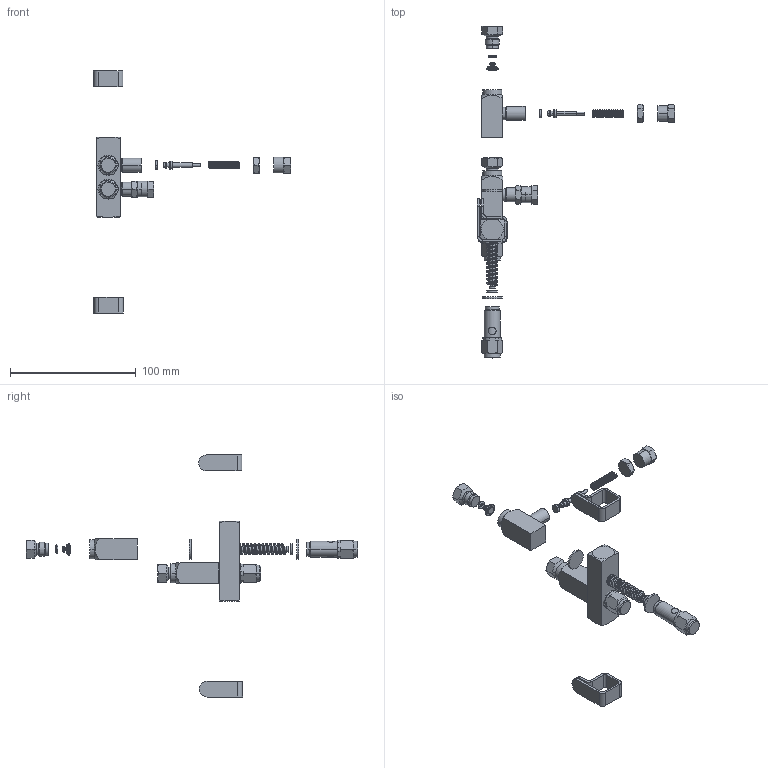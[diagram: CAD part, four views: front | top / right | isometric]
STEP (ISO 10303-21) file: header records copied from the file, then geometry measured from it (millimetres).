
FILE_DESCRIPTION((''),'2;1');
FILE_NAME('24Z542-EN-E_PRT','2022-02-14T12:23:46',('qtmwp1'),(''),'CREO PARAMETRIC BY PTC INC, 2021072','CREO PARAMETRIC BY PTC INC, 2021072','');
FILE_SCHEMA(('CONFIG_CONTROL_DESIGN'));
Length unit declared in the file: inch
Products named in the file (1): 24Z542-EN-E_PRT
Bounding box: 156.58 x 263.62 x 192.27 mm (x, y, z)
Surface area: 30220 mm2 (no closed solid volume)
Topology: 0 solids, 44 shells, 426 faces, 948 edges, 568 vertices
Faces by surface type: plane 175, cone 110, cylinder 109, bspline 16, torus 16
Entity records: 24324 total; most frequent: CARTESIAN_POINT 15300, DIRECTION 1874, ORIENTED_EDGE 1778, EDGE_CURVE 948, AXIS2_PLACEMENT_3D 742, VERTEX_POINT 568, EDGE_LOOP 426, FACE_OUTER_BOUND 426
